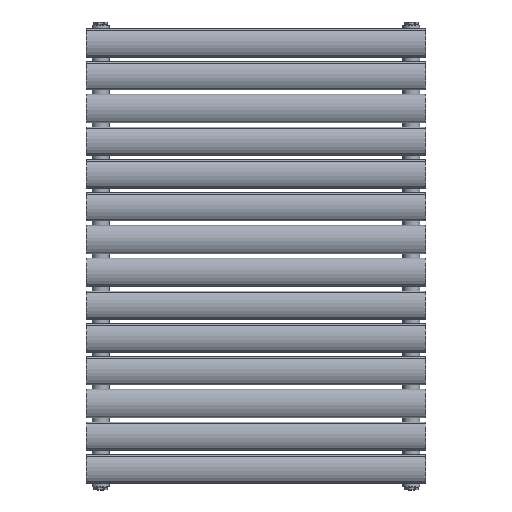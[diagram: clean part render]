
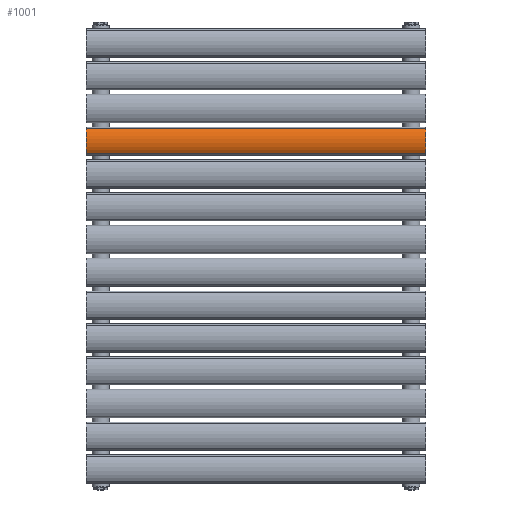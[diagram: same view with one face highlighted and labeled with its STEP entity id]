
A CAD part, top view. The second image highlights one B-rep face of the part: STEP entity #1001.
In plain terms, the highlighted cylindrical face has radius 39.5 mm (diameter 79 mm), a partial arc.
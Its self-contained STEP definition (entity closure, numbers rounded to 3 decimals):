
#107=LINE('',#2554,#139);
#108=LINE('',#2558,#140);
#139=VECTOR('',#1264,10.);
#140=VECTOR('',#1267,10.);
#330=FACE_OUTER_BOUND('',#429,.T.);
#429=EDGE_LOOP('',(#814,#815,#816,#817));
#477=CIRCLE('',#1107,39.5);
#478=CIRCLE('',#1108,39.5);
#560=VERTEX_POINT('',#2552);
#561=VERTEX_POINT('',#2553);
#562=VERTEX_POINT('',#2555);
#563=VERTEX_POINT('',#2557);
#655=EDGE_CURVE('',#560,#561,#107,.T.);
#656=EDGE_CURVE('',#562,#560,#477,.T.);
#657=EDGE_CURVE('',#563,#562,#108,.T.);
#658=EDGE_CURVE('',#561,#563,#478,.T.);
#814=ORIENTED_EDGE('',*,*,#655,.F.);
#815=ORIENTED_EDGE('',*,*,#656,.F.);
#816=ORIENTED_EDGE('',*,*,#657,.F.);
#817=ORIENTED_EDGE('',*,*,#658,.F.);
#968=CYLINDRICAL_SURFACE('',#1106,39.5);
#1001=ADVANCED_FACE('',(#330),#968,.T.);
#1106=AXIS2_PLACEMENT_3D('',#2551,#1262,#1263);
#1107=AXIS2_PLACEMENT_3D('',#2556,#1265,#1266);
#1108=AXIS2_PLACEMENT_3D('',#2559,#1268,#1269);
#1262=DIRECTION('center_axis',(0.,0.,1.));
#1263=DIRECTION('ref_axis',(-0.552,-0.834,0.));
#1264=DIRECTION('',(0.,0.,-1.));
#1265=DIRECTION('center_axis',(0.,0.,1.));
#1266=DIRECTION('ref_axis',(-0.552,-0.834,0.));
#1267=DIRECTION('',(0.,0.,1.));
#1268=DIRECTION('center_axis',(0.,0.,-1.));
#1269=DIRECTION('ref_axis',(-0.552,-0.834,0.));
#2551=CARTESIAN_POINT('Origin',(0.,14.5,0.));
#2552=CARTESIAN_POINT('',(21.816,-18.429,300.));
#2553=CARTESIAN_POINT('',(21.816,-18.429,-300.));
#2554=CARTESIAN_POINT('',(21.816,-18.429,0.));
#2555=CARTESIAN_POINT('',(-21.816,-18.429,300.));
#2556=CARTESIAN_POINT('Origin',(0.,14.5,300.));
#2557=CARTESIAN_POINT('',(-21.816,-18.429,-300.));
#2558=CARTESIAN_POINT('',(-21.816,-18.429,0.));
#2559=CARTESIAN_POINT('Origin',(0.,14.5,-300.));
